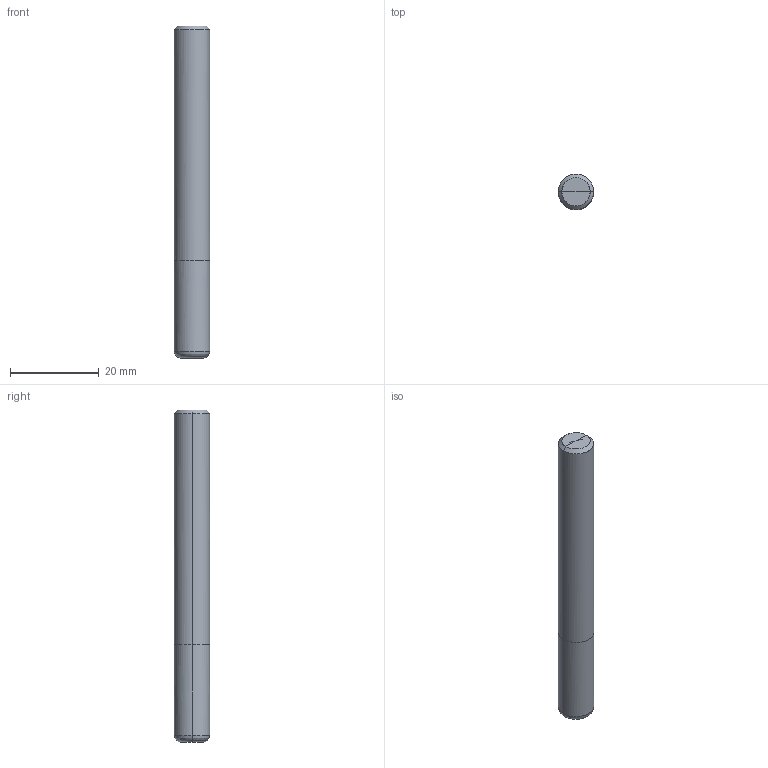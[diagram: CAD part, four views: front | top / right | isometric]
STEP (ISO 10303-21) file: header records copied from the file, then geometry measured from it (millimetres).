
FILE_DESCRIPTION(/* description */ (''),/* implementation_level */ '2;1');
FILE_NAME(/*name*/ '5021-8F-1.5R',/*time_stamp*/'2021-4-28T8:35:37',/*author*/ ('ISBE GmbH'),/*organization*/ ('ISBE GmbH'),/*preprocessor_version*/ 'STEP IO v1.0',/*originating_system*/ '',/*authorisation*/ '');
FILE_SCHEMA (('AUTOMOTIVE_DESIGN'));
Length unit declared in the file: millimetre
Products named in the file (1): Document
Bounding box: 8 x 7.99 x 75 mm (x, y, z)
Surface area: 2059.1 mm2 (no closed solid volume)
Topology: 0 solids, 16 shells, 16 faces, 69 edges, 66 vertices
Faces by surface type: bspline 16
Entity records: 1651 total; most frequent: CARTESIAN_POINT 1344, VERTEX_POINT 56, EDGE_CURVE 56, ORIENTED_EDGE 56, DIRECTION 16, EDGE_LOOP 16, FACE_OUTER_BOUND 16, ADVANCED_FACE 16
